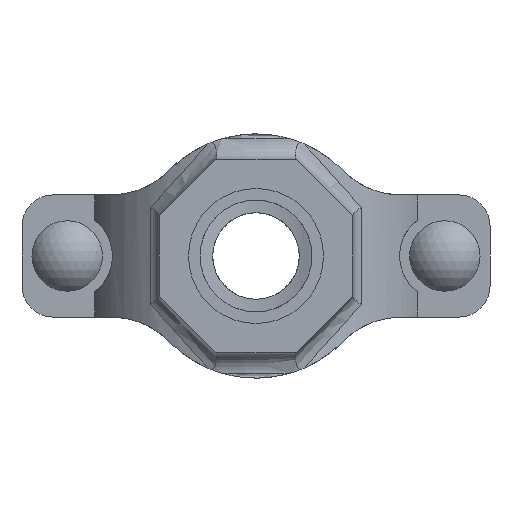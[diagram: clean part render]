
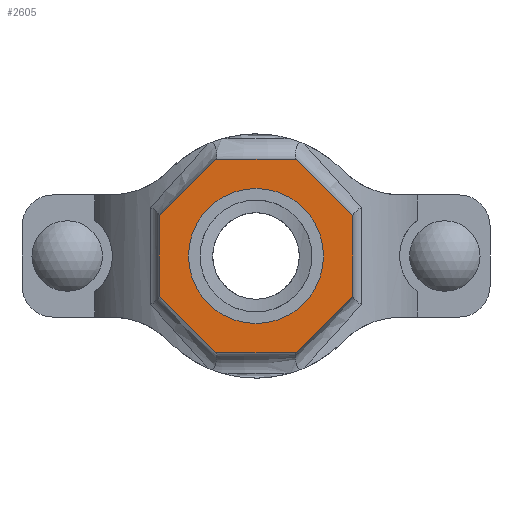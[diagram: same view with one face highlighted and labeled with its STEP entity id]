
A CAD part, front view. The second image highlights one B-rep face of the part: STEP entity #2605.
In plain terms, the highlighted planar face has unit normal (0, -1, 0) as drawn and (0, 1, 0) by its records, which use the part's own axes.
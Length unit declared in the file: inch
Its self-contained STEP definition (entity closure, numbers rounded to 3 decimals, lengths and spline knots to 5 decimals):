
#200=FACE_BOUND('',#475,.T.);
#321=FACE_OUTER_BOUND('',#474,.T.);
#474=EDGE_LOOP('',(#2173,#2174,#2175,#2176,#2177,#2178,#2179,#2180));
#475=EDGE_LOOP('',(#2181));
#615=LINE('',#4816,#801);
#618=LINE('',#4821,#804);
#620=LINE('',#4825,#806);
#622=LINE('',#4829,#808);
#654=LINE('',#5146,#840);
#656=LINE('',#5150,#842);
#658=LINE('',#5154,#844);
#660=LINE('',#5157,#846);
#801=VECTOR('',#3362,0.3937);
#804=VECTOR('',#3367,0.3937);
#806=VECTOR('',#3371,0.3937);
#808=VECTOR('',#3375,0.3937);
#840=VECTOR('',#3489,0.3937);
#842=VECTOR('',#3493,0.3937);
#844=VECTOR('',#3497,0.3937);
#846=VECTOR('',#3501,0.3937);
#936=CIRCLE('',#2871,0.83);
#1132=VERTEX_POINT('',#4813);
#1133=VERTEX_POINT('',#4815);
#1134=VERTEX_POINT('',#4819);
#1135=VERTEX_POINT('',#4823);
#1136=VERTEX_POINT('',#4827);
#1157=VERTEX_POINT('',#4974);
#1180=VERTEX_POINT('',#5145);
#1181=VERTEX_POINT('',#5149);
#1182=VERTEX_POINT('',#5153);
#1454=EDGE_CURVE('',#1133,#1132,#615,.T.);
#1457=EDGE_CURVE('',#1132,#1134,#618,.T.);
#1459=EDGE_CURVE('',#1134,#1135,#620,.T.);
#1461=EDGE_CURVE('',#1135,#1136,#622,.T.);
#1492=EDGE_CURVE('',#1157,#1157,#936,.T.);
#1523=EDGE_CURVE('',#1180,#1133,#654,.T.);
#1525=EDGE_CURVE('',#1181,#1180,#656,.T.);
#1527=EDGE_CURVE('',#1182,#1181,#658,.T.);
#1529=EDGE_CURVE('',#1136,#1182,#660,.T.);
#2173=ORIENTED_EDGE('',*,*,#1529,.T.);
#2174=ORIENTED_EDGE('',*,*,#1527,.T.);
#2175=ORIENTED_EDGE('',*,*,#1525,.T.);
#2176=ORIENTED_EDGE('',*,*,#1523,.T.);
#2177=ORIENTED_EDGE('',*,*,#1454,.T.);
#2178=ORIENTED_EDGE('',*,*,#1457,.T.);
#2179=ORIENTED_EDGE('',*,*,#1459,.T.);
#2180=ORIENTED_EDGE('',*,*,#1461,.T.);
#2181=ORIENTED_EDGE('',*,*,#1492,.T.);
#2341=PLANE('',#2892);
#2605=ADVANCED_FACE('',(#321,#200),#2341,.T.);
#2871=AXIS2_PLACEMENT_3D('',#4975,#3439,#3440);
#2892=AXIS2_PLACEMENT_3D('',#5158,#3502,#3503);
#3362=DIRECTION('',(0.,0.,1.));
#3367=DIRECTION('',(0.707,0.,0.707));
#3371=DIRECTION('',(1.,0.,0.));
#3375=DIRECTION('',(0.707,0.,-0.707));
#3439=DIRECTION('center_axis',(0.,-1.,0.));
#3440=DIRECTION('ref_axis',(-1.,0.,0.));
#3489=DIRECTION('',(-0.707,0.,0.707));
#3493=DIRECTION('',(-1.,0.,0.));
#3497=DIRECTION('',(-0.707,0.,-0.707));
#3501=DIRECTION('',(0.,0.,-1.));
#3502=DIRECTION('center_axis',(0.,1.,0.));
#3503=DIRECTION('ref_axis',(0.,0.,1.));
#4813=CARTESIAN_POINT('',(-1.19,3.25,0.49291));
#4815=CARTESIAN_POINT('',(-1.19,3.25,-0.49291));
#4816=CARTESIAN_POINT('',(-1.19,3.25,0.49291));
#4819=CARTESIAN_POINT('',(-0.49291,3.25,1.19));
#4821=CARTESIAN_POINT('',(-0.49291,3.25,1.19));
#4823=CARTESIAN_POINT('',(0.49291,3.25,1.19));
#4825=CARTESIAN_POINT('',(0.49291,3.25,1.19));
#4827=CARTESIAN_POINT('',(1.19,3.25,0.49291));
#4829=CARTESIAN_POINT('',(1.19,3.25,0.49291));
#4974=CARTESIAN_POINT('',(0.83,3.25,0.));
#4975=CARTESIAN_POINT('Origin',(0.,3.25,0.));
#5145=CARTESIAN_POINT('',(-0.49291,3.25,-1.19));
#5146=CARTESIAN_POINT('',(-1.19,3.25,-0.49291));
#5149=CARTESIAN_POINT('',(0.49291,3.25,-1.19));
#5150=CARTESIAN_POINT('',(-0.49291,3.25,-1.19));
#5153=CARTESIAN_POINT('',(1.19,3.25,-0.49291));
#5154=CARTESIAN_POINT('',(0.49291,3.25,-1.19));
#5157=CARTESIAN_POINT('',(1.19,3.25,-0.49291));
#5158=CARTESIAN_POINT('Origin',(0.,3.25,0.));
